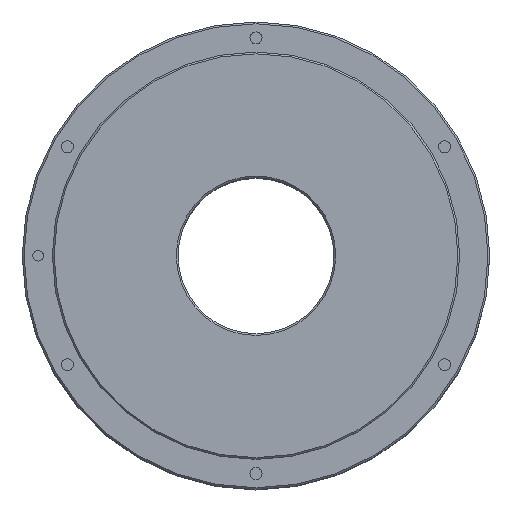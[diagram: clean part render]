
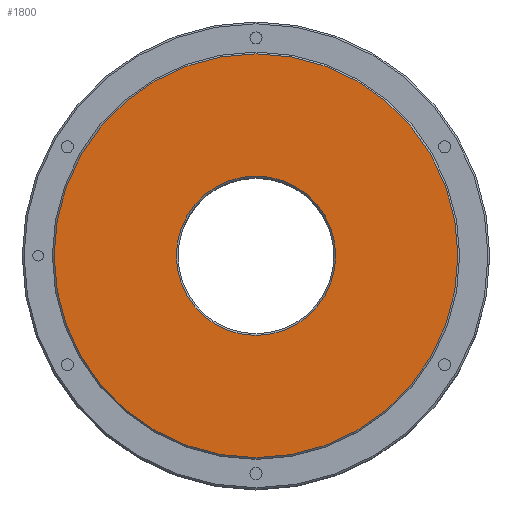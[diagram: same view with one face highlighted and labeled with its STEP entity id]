
A CAD part, top view. The second image highlights one B-rep face of the part: STEP entity #1800.
In plain terms, the highlighted planar face has unit normal (0, 0, 1).
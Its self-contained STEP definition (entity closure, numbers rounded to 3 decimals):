
#221 = DIRECTION ( 'NONE',  ( 0., 0., -1. ) ) ;
#375 = CIRCLE ( 'NONE', #883, 45. ) ;
#883 = AXIS2_PLACEMENT_3D ( 'NONE', #5192, #221, #6028 ) ;
#1142 = DIRECTION ( 'NONE',  ( 1., 0., 0. ) ) ;
#1272 = ORIENTED_EDGE ( 'NONE', *, *, #3072, .T. ) ;
#1556 = DIRECTION ( 'NONE',  ( 0., 0., -1. ) ) ;
#1591 = CARTESIAN_POINT ( 'NONE',  ( 0., -44., 188. ) ) ;
#1800 = ADVANCED_FACE ( 'NONE', ( #9777, #5336 ), #3660, .F. ) ;
#1801 = VERTEX_POINT ( 'NONE', #2504 ) ;
#2441 = CIRCLE ( 'NONE', #8056, 45. ) ;
#2493 = DIRECTION ( 'NONE',  ( 1., 0., 0. ) ) ;
#2504 = CARTESIAN_POINT ( 'NONE',  ( -45., 0., 188. ) ) ;
#2525 = DIRECTION ( 'NONE',  ( 0., 0., 1. ) ) ;
#2812 = CARTESIAN_POINT ( 'NONE',  ( 0., 0., 188. ) ) ;
#2822 = DIRECTION ( 'NONE',  ( 0., 0., 1. ) ) ;
#3072 = EDGE_CURVE ( 'NONE', #10675, #6588, #4669, .T. ) ;
#3333 = CARTESIAN_POINT ( 'NONE',  ( 0., 0., 188. ) ) ;
#3660 = PLANE ( 'NONE',  #8737 ) ;
#3690 = AXIS2_PLACEMENT_3D ( 'NONE', #7798, #2822, #8636 ) ;
#3807 = EDGE_CURVE ( 'NONE', #1801, #4489, #2441, .T. ) ;
#4145 = DIRECTION ( 'NONE',  ( 1., 0., 0. ) ) ;
#4489 = VERTEX_POINT ( 'NONE', #4877 ) ;
#4669 = CIRCLE ( 'NONE', #5119, 114. ) ;
#4877 = CARTESIAN_POINT ( 'NONE',  ( 45., 0., 188. ) ) ;
#5119 = AXIS2_PLACEMENT_3D ( 'NONE', #2812, #2525, #2493 ) ;
#5192 = CARTESIAN_POINT ( 'NONE',  ( 0., 0., 188. ) ) ;
#5336 = FACE_OUTER_BOUND ( 'NONE', #7699, .T. ) ;
#5792 = ORIENTED_EDGE ( 'NONE', *, *, #7845, .T. ) ;
#5952 = CIRCLE ( 'NONE', #3690, 114. ) ;
#6028 = DIRECTION ( 'NONE',  ( 1., 0., 0. ) ) ;
#6588 = VERTEX_POINT ( 'NONE', #10483 ) ;
#6844 = ORIENTED_EDGE ( 'NONE', *, *, #7927, .T. ) ;
#7498 = ORIENTED_EDGE ( 'NONE', *, *, #3807, .T. ) ;
#7611 = EDGE_LOOP ( 'NONE', ( #7498, #5792 ) ) ;
#7699 = EDGE_LOOP ( 'NONE', ( #6844, #1272 ) ) ;
#7798 = CARTESIAN_POINT ( 'NONE',  ( 0., 0., 188. ) ) ;
#7845 = EDGE_CURVE ( 'NONE', #4489, #1801, #375, .T. ) ;
#7927 = EDGE_CURVE ( 'NONE', #6588, #10675, #5952, .T. ) ;
#8056 = AXIS2_PLACEMENT_3D ( 'NONE', #3333, #9122, #4145 ) ;
#8636 = DIRECTION ( 'NONE',  ( 1., 0., 0. ) ) ;
#8737 = AXIS2_PLACEMENT_3D ( 'NONE', #1591, #1556, #1142 ) ;
#9122 = DIRECTION ( 'NONE',  ( 0., 0., -1. ) ) ;
#9777 = FACE_BOUND ( 'NONE', #7611, .T. ) ;
#10429 = CARTESIAN_POINT ( 'NONE',  ( -114., 0., 188. ) ) ;
#10483 = CARTESIAN_POINT ( 'NONE',  ( 114., 0., 188. ) ) ;
#10675 = VERTEX_POINT ( 'NONE', #10429 ) ;
